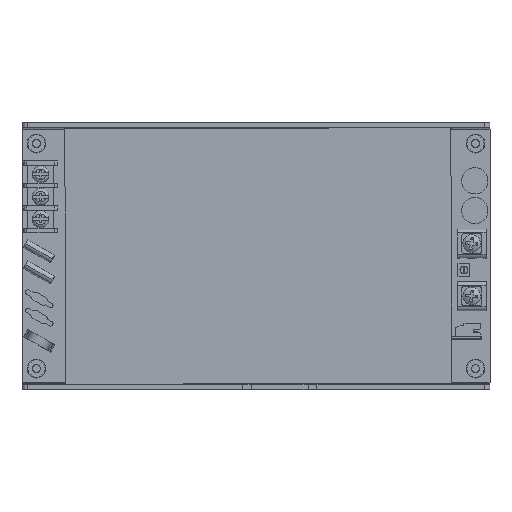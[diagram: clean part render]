
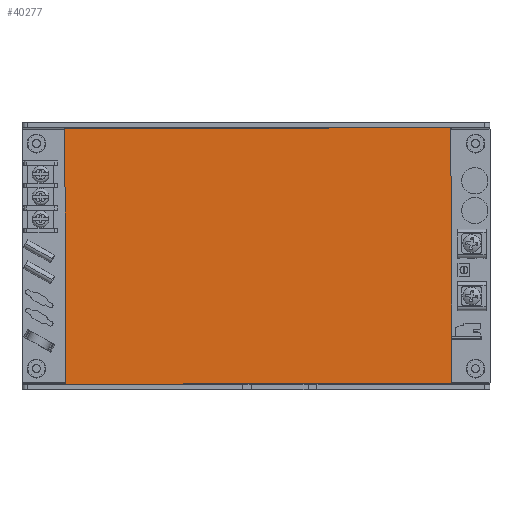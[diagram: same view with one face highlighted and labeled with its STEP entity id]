
A CAD part, top view. The second image highlights one B-rep face of the part: STEP entity #40277.
In plain terms, the highlighted planar face has unit normal (-0.004, 0, 1).
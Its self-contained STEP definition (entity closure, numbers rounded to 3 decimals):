
#2088=ORIENTED_EDGE('',*,*,#14238,.T.);
#2089=ORIENTED_EDGE('',*,*,#14231,.F.);
#2090=ORIENTED_EDGE('',*,*,#14239,.F.);
#2091=ORIENTED_EDGE('',*,*,#14236,.T.);
#14231=EDGE_CURVE('',#20307,#20304,#24371,.T.);
#14236=EDGE_CURVE('',#20311,#20310,#24376,.T.);
#14238=EDGE_CURVE('',#20310,#20304,#24378,.T.);
#14239=EDGE_CURVE('',#20311,#20307,#24379,.T.);
#20304=VERTEX_POINT('',#57690);
#20307=VERTEX_POINT('',#57695);
#20310=VERTEX_POINT('',#57705);
#20311=VERTEX_POINT('',#57707);
#24371=LINE('',#57696,#29139);
#24376=LINE('',#57706,#29144);
#24378=LINE('',#57710,#29146);
#24379=LINE('',#57711,#29147);
#29139=VECTOR('',#46068,1000.);
#29144=VECTOR('',#46077,1000.);
#29146=VECTOR('',#46081,1000.);
#29147=VECTOR('',#46082,1000.);
#33907=EDGE_LOOP('',(#2088,#2089,#2090,#2091));
#36243=FACE_BOUND('',#33907,.T.);
#38583=PLANE('',#42636);
#40277=ADVANCED_FACE('',(#36243),#38583,.F.);
#42636=AXIS2_PLACEMENT_3D('',#57709,#46079,#46080);
#46068=DIRECTION('',(-1.,-0.003,-0.004));
#46077=DIRECTION('',(-1.,-0.003,-0.004));
#46079=DIRECTION('',(0.004,0.,-1.));
#46080=DIRECTION('',(-1.,0.,-0.004));
#46081=DIRECTION('',(0.003,-1.,0.));
#46082=DIRECTION('',(0.003,-1.,0.));
#57690=CARTESIAN_POINT('',(-30.428,31.068,134.662));
#57695=CARTESIAN_POINT('',(116.396,31.522,135.282));
#57696=CARTESIAN_POINT('',(116.396,31.522,135.282));
#57705=CARTESIAN_POINT('',(-30.729,128.261,134.661));
#57706=CARTESIAN_POINT('',(116.095,128.716,135.281));
#57707=CARTESIAN_POINT('',(116.095,128.716,135.281));
#57709=CARTESIAN_POINT('',(116.103,126.256,135.281));
#57710=CARTESIAN_POINT('',(-30.722,125.801,134.661));
#57711=CARTESIAN_POINT('',(116.103,126.256,135.281));
